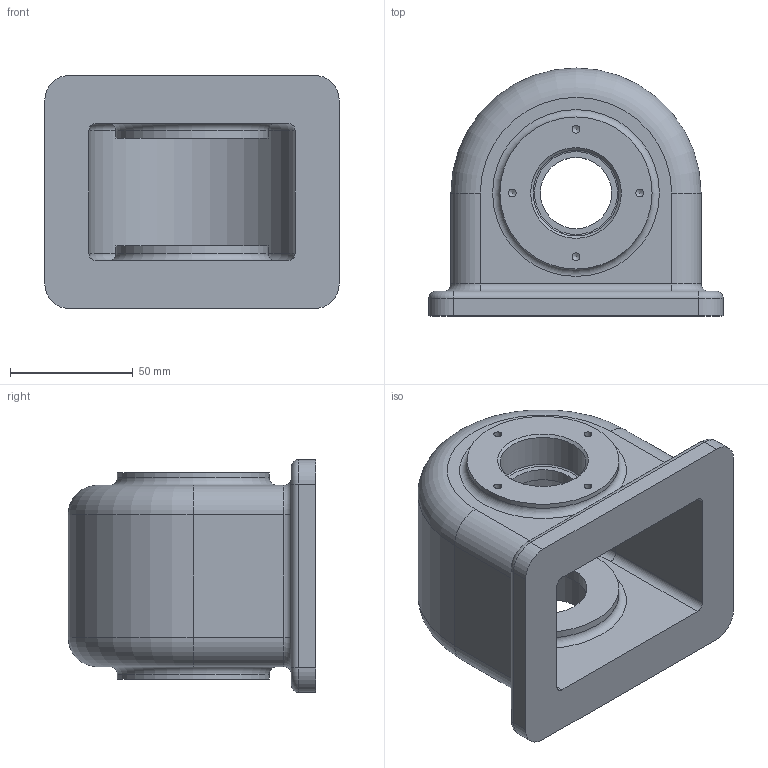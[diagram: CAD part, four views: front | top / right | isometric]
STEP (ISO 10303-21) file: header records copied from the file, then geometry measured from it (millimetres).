
FILE_DESCRIPTION(/* description */ (''),/* implementation_level */ '2;1');
FILE_NAME(/* name */ 'C:\Users\201-27\Desktop\380723E1014\본체.stp',/* time_stamp */ '2018-07-07T17:00:23+09:00',/* author */ ('201-27'),/* organization */ (''),/* preprocessor_version */ 'ST-DEVELOPER v16.1',/* originating_system */ 'Autodesk Inventor 2016',/* authorisation */ '');
FILE_SCHEMA (('AUTOMOTIVE_DESIGN { 1 0 10303 214 3 1 1 }'));
Length unit declared in the file: millimetre
Products named in the file (1): 본체
Bounding box: 120 x 101 x 95 mm (x, y, z)
Volume: 337082.1 mm3; surface area: 76867.1 mm2
Topology: 1 solids, 1 shells, 85 faces, 190 edges, 115 vertices
Faces by surface type: cylinder 38, plane 20, torus 18, cone 9
Full cylindrical faces by diameter (mm): 3.242 x8, 29 x1, 35 x1, 36 x1, 42 x1, 62 x4
Entity records: 2128 total; most frequent: DIRECTION 414, CARTESIAN_POINT 336, ORIENTED_EDGE 294, AXIS2_PLACEMENT_3D 181, EDGE_CURVE 147, EDGE_LOOP 128, VERTEX_POINT 103, CIRCLE 95
